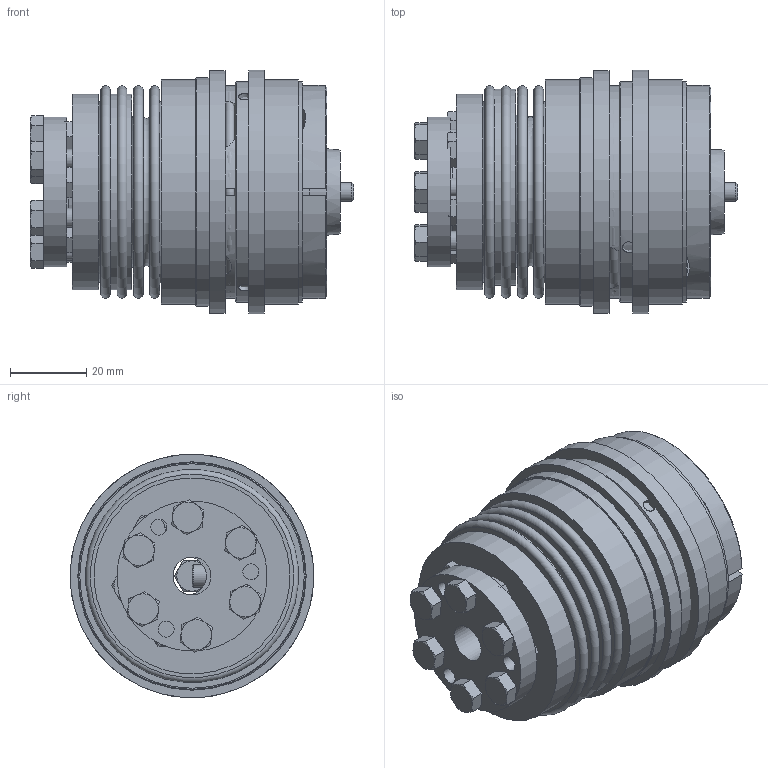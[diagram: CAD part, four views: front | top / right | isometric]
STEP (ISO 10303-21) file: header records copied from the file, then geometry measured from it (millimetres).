
FILE_DESCRIPTION( ( 'Unknown' ), '1' );
FILE_NAME( 'C:/Dokumente und Einstellungen/SKarpstein/Desktop/Korrigierte 3D Modelle/KBK-B-IK/KBK-BIK-30-79.stp', 'Unknown', ( 'Unknown' ), ( 'Unknown' ), 'XStep 1.0', 'Unknown', ' ' );
FILE_SCHEMA( ( 'automotive_design' ) );
Length unit declared in the file: millimetre
Products named in the file (13): Assem1; Assem2; Assem3; Zylinderschraube DIN 912_0_0_0; Hex Screw GradeC_DIN_ISO 4018 - M5 x 20-NN_1; KB30_Standard_1; BA30_Standard_1; Stellring 30_0; Druckring 30_0; L-K-30 Grundkörper_0; Klemmnabe 30_0; Flansch BK30; BK30_Standard_1
Bounding box: 84.95 x 64 x 64 mm (x, y, z)
Volume: 300885.5 mm3; surface area: 170331.7 mm2
Topology: 34 solids, 34 shells, 556 faces, 1167 edges, 746 vertices
Faces by surface type: plane 251, cylinder 139, cone 124, torus 42
Full cylindrical faces by diameter (mm): 3.242 x6, 4.2 x27, 4.917 x2, 5 x13, 5.5 x18, 6 x3, 6.4 x2, 10 x8, 11 x2, 23.9 x2, 24.4 x3, 25 x4, 30 x2, 34 x2, 37 x5, 38 x6, 39.5 x3, 40 x2, 46.5 x4, 47.3 x4, 51.5 x3, 52 x2, 58 x2, 59 x2, 60 x2, 64 x2
Entity records: 4780 total; most frequent: CARTESIAN_POINT 1161, DIRECTION 718, ORIENTED_EDGE 486, AXIS2_PLACEMENT_3D 334, EDGE_LOOP 324, EDGE_CURVE 243, FACE_OUTER_BOUND 232, VERTEX_POINT 207
